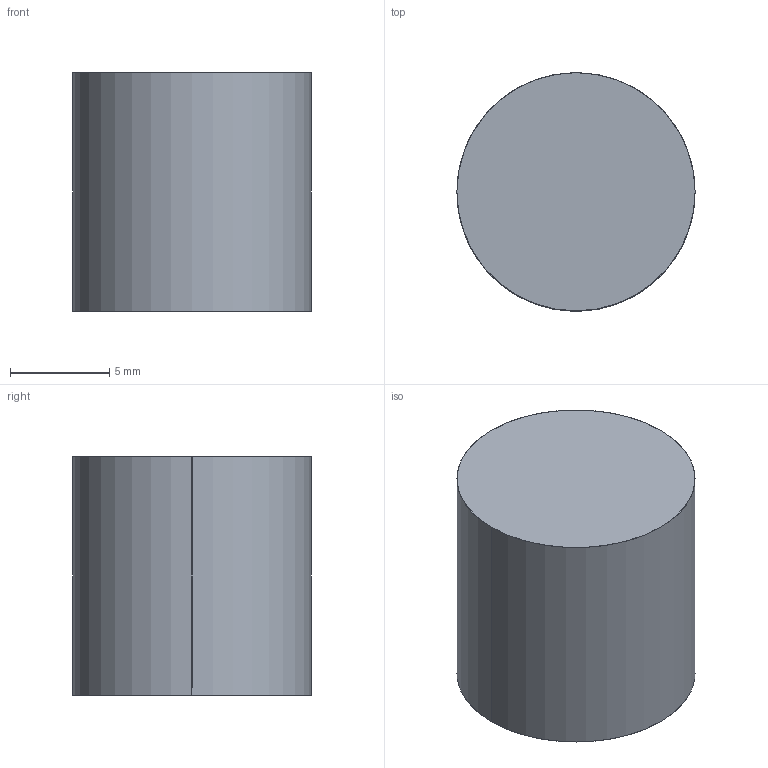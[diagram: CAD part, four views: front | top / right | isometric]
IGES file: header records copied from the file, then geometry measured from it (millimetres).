
Start section: SolidWorks IGES file using analytic representation for surfaces
Global section: file name: X:\11_SW2020-Inv2020\00_全2021-11新製品まで\d\DRP-122\drp-122.IGS; native system: SolidWorks 2020; preprocessor: SolidWorks 2020; author: ImaoCorp; date: 211021.165245; units: millimetre
Bounding box: 12 x 12 x 12 mm (x, y, z)
Surface area: 779.1 mm2 (no closed solid volume)
Topology: 0 solids, 0 shells, 7 faces, 144 edges, 144 vertices
Faces by surface type: revolution 4, bspline 3
